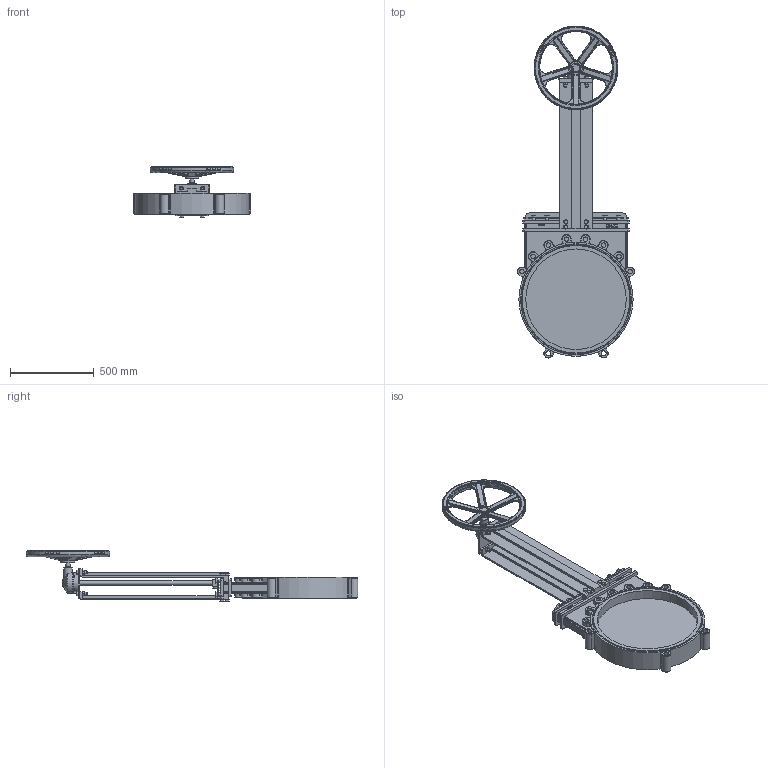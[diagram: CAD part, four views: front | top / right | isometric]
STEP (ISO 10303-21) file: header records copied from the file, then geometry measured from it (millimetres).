
FILE_DESCRIPTION(('STEP AP242'), '1');
FILE_NAME('GVKN1331N-2W-Fb-R Çàäâèæêà øèáåðíàÿ DN.ru Äó600 Ðó10 Ðð4', '2026-06-07T09:27:54', ('R2D2'), (''), 'C3D Converter', 'C3D Toolkit', '');
FILE_SCHEMA(('AP242_MANAGED_MODEL_BASED_3D_ENGINEERING_MIM_LF { 1 0 10303 442 1 1 4 }'));
Length unit declared in the file: millimetre
Products named in the file (1): GVKN1331N-2W-Fb-R
Bounding box: 700.9 x 1980.95 x 306.31 mm (x, y, z)
Volume: 33468161.7 mm3; surface area: 3209970.9 mm2
Topology: 1 solids, 1 shells, 1920 faces, 4862 edges, 3028 vertices
Faces by surface type: plane 814, cylinder 416, torus 270, bspline 209, extrusion 102, sphere 59, cone 50
Full cylindrical faces by diameter (mm): 10 x4, 16 x4, 18 x8, 25 x3, 27 x16, 30 x2, 50 x1, 58.333 x1, 83.333 x1, 125 x2, 433.333 x1, 446.666 x1, 486.666 x1, 500 x1, 600 x2, 642 x2, 662 x2, 682 x1
Entity records: 116932 total; most frequent: CARTESIAN_POINT 57233, ORIENTED_EDGE 9510, DIRECTION 8503, EDGE_CURVE 4755, AXIS2_PLACEMENT_3D 3090, VERTEX_POINT 3028, VECTOR 2323, LINE 2221
